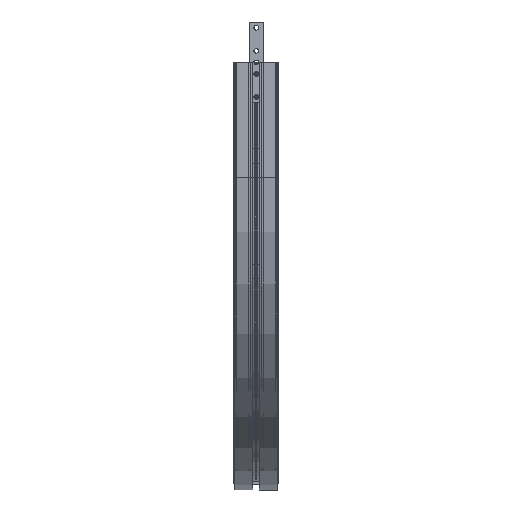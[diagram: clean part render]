
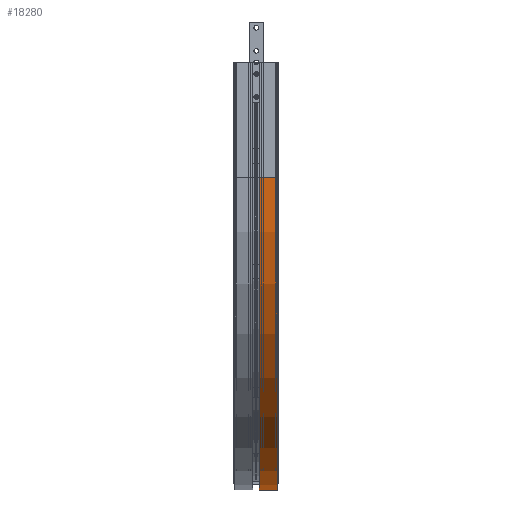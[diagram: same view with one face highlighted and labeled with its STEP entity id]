
A CAD part, left-side view. The second image highlights one B-rep face of the part: STEP entity #18280.
In plain terms, the highlighted cylindrical face has radius 542.5 mm (diameter 1085 mm), a partial arc.
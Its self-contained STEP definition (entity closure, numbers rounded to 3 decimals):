
#483 = ORIENTED_EDGE ( 'NONE', *, *, #18633, .F. ) ;
#484 = ORIENTED_EDGE ( 'NONE', *, *, #18634, .F. ) ;
#485 = ORIENTED_EDGE ( 'NONE', *, *, #18630, .T. ) ;
#486 = ORIENTED_EDGE ( 'NONE', *, *, #18635, .T. ) ;
#4885 = CARTESIAN_POINT ( 'NONE',  ( 742.5, 31.39, 500. ) ) ;
#4888 = CARTESIAN_POINT ( 'NONE',  ( 742.5, 0., 500. ) ) ;
#4893 = CARTESIAN_POINT ( 'NONE',  ( 200., 0., -42.5 ) ) ;
#7602 = CARTESIAN_POINT ( 'NONE',  ( 200., 31.39, -42.5 ) ) ;
#8065 = CARTESIAN_POINT ( 'NONE',  ( 200., 0., 500. ) ) ;
#8067 = DIRECTION ( 'NONE',  ( 0., 1., 0. ) ) ;
#8070 = CYLINDRICAL_SURFACE ( 'NONE', #8386, 542.5 ) ;
#8071 = FACE_OUTER_BOUND ( 'NONE', #17239, .T. ) ;
#8073 = DIRECTION ( 'NONE',  ( 0., 0., 1. ) ) ;
#8386 = AXIS2_PLACEMENT_3D ( 'NONE', #8065, #8067, #8073 ) ;
#8808 = CIRCLE ( 'NONE', #8811, 542.5 ) ;
#8810 = VECTOR ( 'NONE', #9936, 1000. ) ;
#8811 = AXIS2_PLACEMENT_3D ( 'NONE', #9924, #9925, #9926 ) ;
#8813 = CIRCLE ( 'NONE', #8815, 542.5 ) ;
#8815 = AXIS2_PLACEMENT_3D ( 'NONE', #9933, #9934, #9935 ) ;
#8816 = VECTOR ( 'NONE', #9939, 1000. ) ;
#9915 = CARTESIAN_POINT ( 'NONE',  ( 742.5, 0., 500. ) ) ;
#9924 = CARTESIAN_POINT ( 'NONE',  ( 200., 0., 500. ) ) ;
#9925 = DIRECTION ( 'NONE',  ( 0., 1., 0. ) ) ;
#9926 = DIRECTION ( 'NONE',  ( 0., 0., 1. ) ) ;
#9932 = LINE ( 'NONE', #9915, #8810 ) ;
#9933 = CARTESIAN_POINT ( 'NONE',  ( 200., 31.39, 500. ) ) ;
#9934 = DIRECTION ( 'NONE',  ( 0., 1., 0. ) ) ;
#9935 = DIRECTION ( 'NONE',  ( 0., 0., 1. ) ) ;
#9936 = DIRECTION ( 'NONE',  ( 0., 1., 0. ) ) ;
#9937 = LINE ( 'NONE', #9938, #8816 ) ;
#9938 = CARTESIAN_POINT ( 'NONE',  ( 200., 0., -42.5 ) ) ;
#9939 = DIRECTION ( 'NONE',  ( 0., 1., 0. ) ) ;
#16310 = VERTEX_POINT ( 'NONE', #4885 ) ;
#16313 = VERTEX_POINT ( 'NONE', #4888 ) ;
#16318 = VERTEX_POINT ( 'NONE', #4893 ) ;
#16925 = VERTEX_POINT ( 'NONE', #7602 ) ;
#17239 = EDGE_LOOP ( 'NONE', ( #483, #484, #485, #486 ) ) ;
#18280 = ADVANCED_FACE ( 'NONE', ( #8071 ), #8070, .T. ) ;
#18630 = EDGE_CURVE ( 'NONE', #16313, #16318, #8808, .T. ) ;
#18633 = EDGE_CURVE ( 'NONE', #16310, #16925, #8813, .T. ) ;
#18634 = EDGE_CURVE ( 'NONE', #16313, #16310, #9932, .T. ) ;
#18635 = EDGE_CURVE ( 'NONE', #16318, #16925, #9937, .T. ) ;
